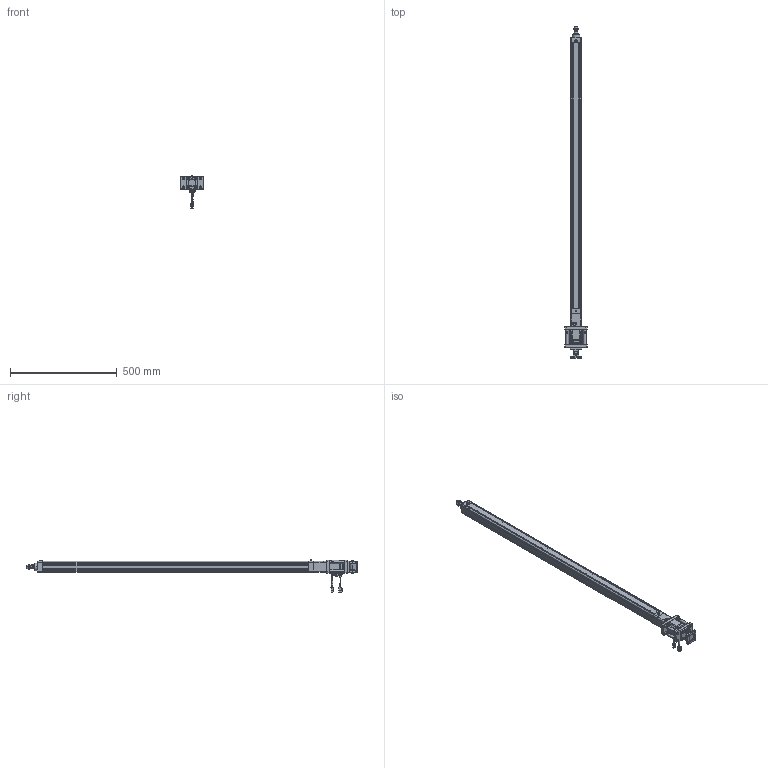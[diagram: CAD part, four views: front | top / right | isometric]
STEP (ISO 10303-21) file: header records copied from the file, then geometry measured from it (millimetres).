
FILE_DESCRIPTION((''),'2;1');
FILE_NAME('HE40-D-100_ASM','2020-05-27T',('ASUS20200'),(''),'CREO PARAMETRIC BY PTC INC, 2014190','CREO PARAMETRIC BY PTC INC, 2014190','');
FILE_SCHEMA(('CONFIG_CONTROL_DESIGN'));
Length unit declared in the file: millimetre
Products named in the file (32): HE40-D-P-001-X1; HE40-D-P-002-X1; HE40-D-P-003-X1; 6200ZZ; HE40-D-009-X1; HE40-D-010-X1; _MHMF022L1A2; _CABLE_MOTOR_BOTTOM_03; _CABLE_MOTOR_TOP_03; _MOTOR_CONNECTOR_2; _CABLE_BRAKE_BOTTOM_03; _CABLE_BRAKE_TOP_03; _MHMF_CONNECTOR_9_PIN_A6; MHMF022L1A2M2_1_ASM; MHMF022L1A2M2_ASM; SLM-01; YZ-M6X1; JDB202820; SKT-13; JX5X5X20; HE40-FB-LG; F-HE40-FB; M6X16; F-SE40CB; F-SE40CB-XD; F-SE40CB_ASM; F-SE40CA; HE40-D-P-005-X1; HE40-D-P-004-X1; HE40-D-P-008-X1; LGLM-M6-22; HE40-D-100_ASM
Assembly tree (48 placements, depth 4):
  HE40-D-100_ASM
    HE40-D-P-001-X1
    HE40-D-P-002-X1
    HE40-D-P-003-X1
    6200ZZ
    HE40-D-009-X1
    HE40-D-010-X1
    MHMF022L1A2M2_ASM
      MHMF022L1A2M2_1_ASM
        _MHMF022L1A2
        _CABLE_MOTOR_BOTTOM_03
        _CABLE_MOTOR_TOP_03
        _MOTOR_CONNECTOR_2
        _CABLE_BRAKE_BOTTOM_03
        _CABLE_BRAKE_TOP_03
        _MHMF_CONNECTOR_9_PIN_A6
    SLM-01
    YZ-M6X1
    JDB202820
    SKT-13
    JX5X5X20
    HE40-FB-LG  x4
    F-HE40-FB
    M6X16  x12
    F-SE40CB_ASM
      F-SE40CB
      F-SE40CB-XD
    F-SE40CA
    HE40-D-P-005-X1
    HE40-D-P-004-X1
    HE40-D-P-008-X1
    LGLM-M6-22  x4
Bounding box: 105 x 1555 x 152.7 mm (x, y, z)
Volume: 1975318.7 mm3; surface area: 810126.5 mm2
Topology: 45 solids, 82 shells, 2747 faces, 6519 edges, 4043 vertices
Faces by surface type: plane 1053, cylinder 854, cone 662, torus 138, sphere 36, bspline 4
Entity records: 70043 total; most frequent: CARTESIAN_POINT 12927, DIRECTION 12728, ORIENTED_EDGE 11070, EDGE_CURVE 5591, AXIS2_PLACEMENT_3D 4858, VERTEX_POINT 3502, VECTOR 3012, LINE 3012
